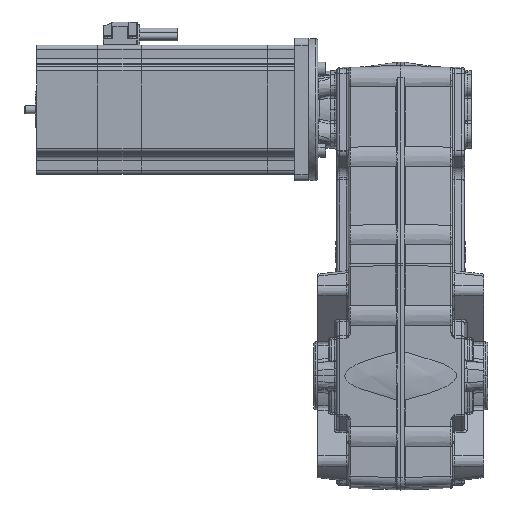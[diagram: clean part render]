
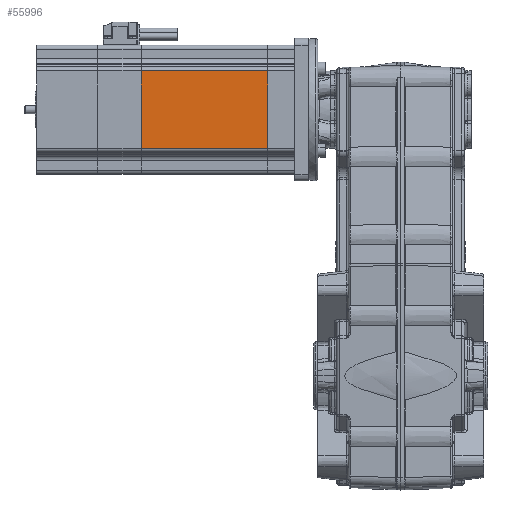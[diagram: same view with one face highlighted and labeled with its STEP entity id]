
A CAD part, front view. The second image highlights one B-rep face of the part: STEP entity #55996.
In plain terms, the highlighted planar face has unit normal (0, -1, 0) as drawn and (1, 0, 0) by its records, which use the part's own axes.
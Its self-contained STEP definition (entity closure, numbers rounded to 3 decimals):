
#3975 = VECTOR ( 'NONE', #107267, 1000. ) ;
#6899 = ORIENTED_EDGE ( 'NONE', *, *, #97676, .F. ) ;
#6977 = FACE_OUTER_BOUND ( 'NONE', #28193, .T. ) ;
#7446 = VERTEX_POINT ( 'NONE', #60423 ) ;
#7694 = CARTESIAN_POINT ( 'NONE',  ( 47.5, -93., 28.48 ) ) ;
#9579 = DIRECTION ( 'NONE',  ( 0., 0., -1. ) ) ;
#15525 = DIRECTION ( 'NONE',  ( 0., 1., 0. ) ) ;
#22491 = VECTOR ( 'NONE', #9579, 1000. ) ;
#23739 = CARTESIAN_POINT ( 'NONE',  ( 47.5, 0., 28.48 ) ) ;
#24470 = VERTEX_POINT ( 'NONE', #23739 ) ;
#25416 = EDGE_CURVE ( 'NONE', #7446, #44875, #81262, .T. ) ;
#28193 = EDGE_LOOP ( 'NONE', ( #99292, #91244, #6899, #49448 ) ) ;
#29769 = CARTESIAN_POINT ( 'NONE',  ( 47.5, 0., 31.48 ) ) ;
#42471 = PLANE ( 'NONE',  #83435 ) ;
#43948 = CARTESIAN_POINT ( 'NONE',  ( 47.5, -93., -28.48 ) ) ;
#44875 = VERTEX_POINT ( 'NONE', #63994 ) ;
#49448 = ORIENTED_EDGE ( 'NONE', *, *, #89781, .T. ) ;
#51587 = LINE ( 'NONE', #69893, #3975 ) ;
#55996 = ADVANCED_FACE ( 'NONE', ( #6977 ), #42471, .T. ) ;
#56289 = DIRECTION ( 'NONE',  ( 0., 0., -1. ) ) ;
#57215 = VECTOR ( 'NONE', #118617, 1000. ) ;
#60254 = CARTESIAN_POINT ( 'NONE',  ( 47.5, -93., 31.48 ) ) ;
#60423 = CARTESIAN_POINT ( 'NONE',  ( 47.5, -93., -28.48 ) ) ;
#63994 = CARTESIAN_POINT ( 'NONE',  ( 47.5, 0., -28.48 ) ) ;
#69893 = CARTESIAN_POINT ( 'NONE',  ( 47.5, -93., 28.48 ) ) ;
#80374 = DIRECTION ( 'NONE',  ( 1., 0., 0. ) ) ;
#81262 = LINE ( 'NONE', #43948, #57215 ) ;
#83435 = AXIS2_PLACEMENT_3D ( 'NONE', #60254, #80374, #15525 ) ;
#85599 = LINE ( 'NONE', #103993, #110475 ) ;
#89781 = EDGE_CURVE ( 'NONE', #24470, #118460, #51587, .T. ) ;
#91244 = ORIENTED_EDGE ( 'NONE', *, *, #25416, .T. ) ;
#97676 = EDGE_CURVE ( 'NONE', #24470, #44875, #104434, .T. ) ;
#99292 = ORIENTED_EDGE ( 'NONE', *, *, #109631, .T. ) ;
#103993 = CARTESIAN_POINT ( 'NONE',  ( 47.5, -93., 31.48 ) ) ;
#104434 = LINE ( 'NONE', #29769, #22491 ) ;
#107267 = DIRECTION ( 'NONE',  ( 0., -1., 0. ) ) ;
#109631 = EDGE_CURVE ( 'NONE', #118460, #7446, #85599, .T. ) ;
#110475 = VECTOR ( 'NONE', #56289, 1000. ) ;
#118460 = VERTEX_POINT ( 'NONE', #7694 ) ;
#118617 = DIRECTION ( 'NONE',  ( 0., 1., 0. ) ) ;
